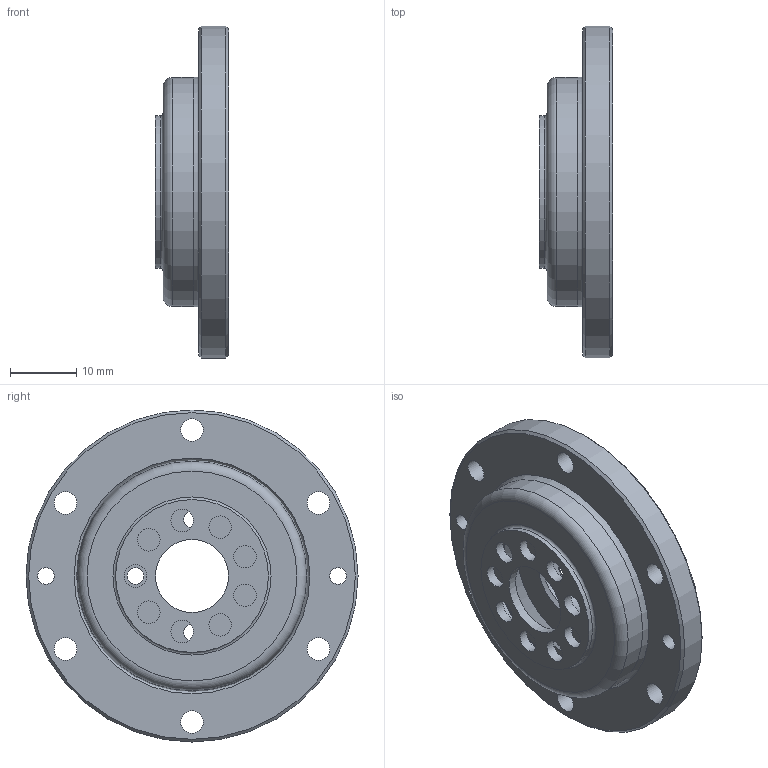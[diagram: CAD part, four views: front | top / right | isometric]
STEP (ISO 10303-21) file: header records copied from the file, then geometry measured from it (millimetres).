
FILE_DESCRIPTION (( 'STEP AP203' ), '1' );
FILE_NAME ('FCD-14-XXX-C.STEP', '2025-03-18T02:16:18', ( '微软用户' ), ( '微软中国' ), 'SwSTEP 2.0', 'SolidWorks 2016', '' );
FILE_SCHEMA (( 'CONFIG_CONTROL_DESIGN' ));
Length unit declared in the file: millimetre
Products named in the file (1): FCD-14-XXX-C
Bounding box: 11 x 50 x 50 mm (x, y, z)
Volume: 8364.8 mm3; surface area: 12674.4 mm2
Topology: 30 solids, 30 shells, 198 faces, 520 edges, 341 vertices
Faces by surface type: cylinder 89, plane 63, sphere 23, cone 13, torus 10
Full cylindrical faces by diameter (mm): 2.5 x6, 3.4 x15, 11 x2, 23 x1, 24.07 x1, 25.07 x2, 26.67 x1, 26.87 x2, 27.3 x1, 29.5 x1, 31.7 x1, 32.172 x2, 33.796 x2, 34.508 x1, 34.7 x1, 35.5 x1, 50 x1
Entity records: 5421 total; most frequent: DIRECTION 1060, CARTESIAN_POINT 861, ORIENTED_EDGE 754, AXIS2_PLACEMENT_3D 484, EDGE_CURVE 377, EDGE_LOOP 298, VERTEX_POINT 285, CIRCLE 285
